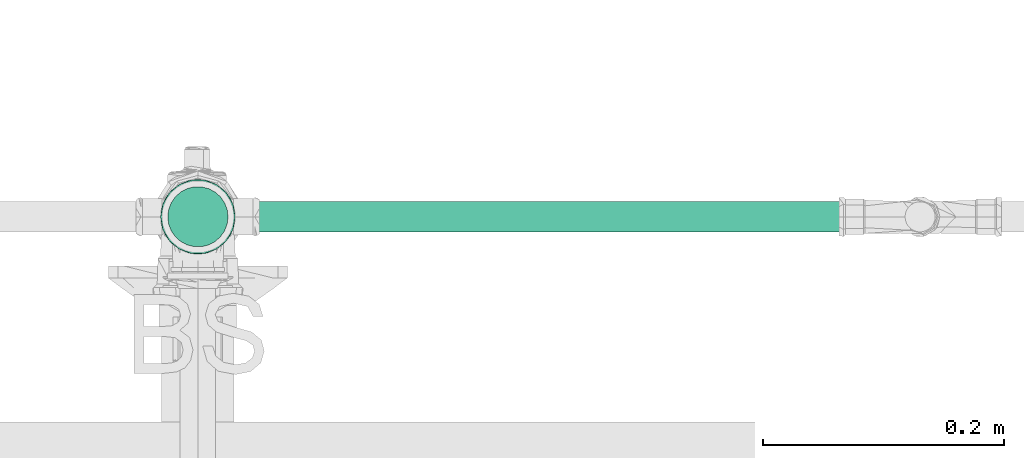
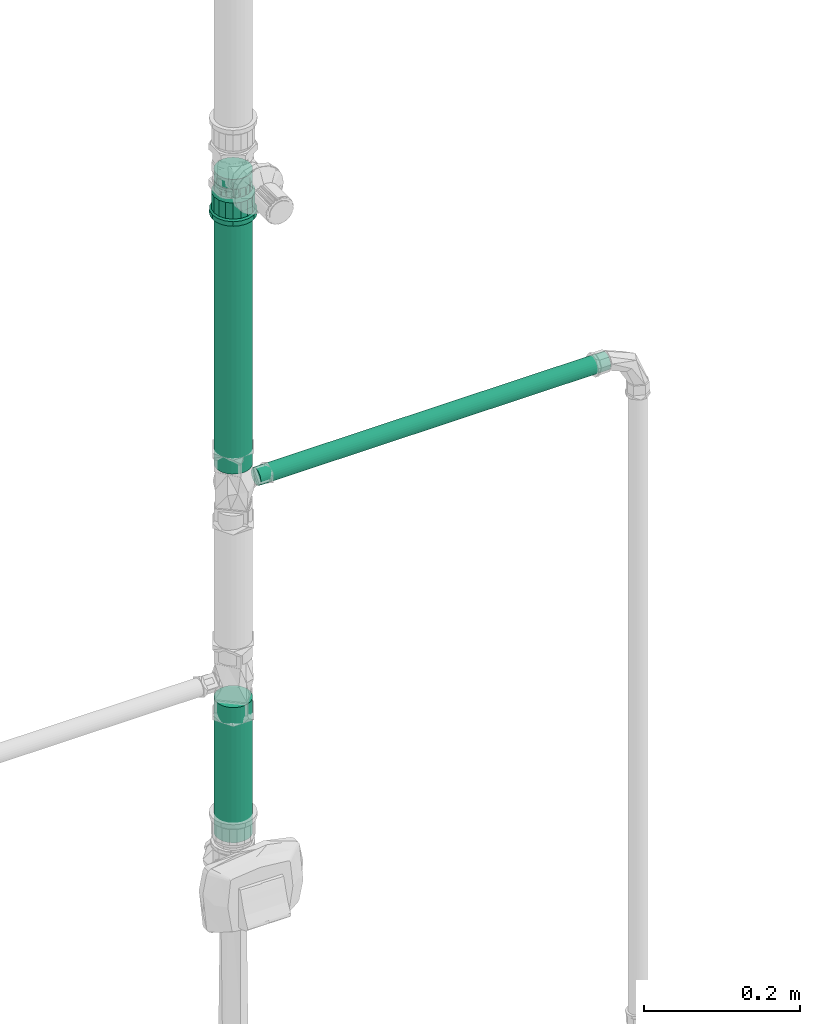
# One storey, part 290 of 589: 3 flow segments, 1 flow fitting.
"""IFC2X3 building model written with IfcOpenShell, lengths in millimetres."""

import ifcopenshell
import ifcopenshell.guid

model = None  # the IFC model being written
_history = None  # IfcOwnerHistory: only IFC2X3 demands one
_inside = {}  # id of a spatial element -> (the spatial element, [elements in it])
_under = {}  # id of a project, library or spatial element -> (it, [spatial elements below it])
_declared = {}  # id of a project -> (the project, [libraries it declares])
_typed = {}  # id of a type object -> (the type object, [elements of that type])
_made_of = {}  # id of a material, layer set ... -> (it, [elements and type objects made of it])


def new_model(schema):
    """Start an empty IFC model of exactly this schema.

    Asked for "IFC4X3", IfcOpenShell would pick the latest addendum, in which some entities
    have other attributes; the version numbers below select the first issue.
    IFC2X3 requires an IfcOwnerHistory on every rooted entity: one is made here for all.
    """
    global model, _history
    if schema == "IFC4X3":
        model = ifcopenshell.file(schema_version=(4, 3, 0, 0))
    else:
        model = ifcopenshell.file(schema=schema)
    _inside.clear()
    _under.clear()
    _declared.clear()
    _typed.clear()
    _made_of.clear()
    _history = None
    if model.schema == "IFC2X3":
        org = make("IfcOrganization", Name="unknown")
        user = make(
            "IfcPersonAndOrganization",
            ThePerson=make("IfcPerson", FamilyName="unknown"),
            TheOrganization=org,
        )
        app = make(
            "IfcApplication",
            ApplicationDeveloper=org,
            Version="unknown",
            ApplicationFullName="unknown",
            ApplicationIdentifier="unknown",
        )
        _history = make(
            "IfcOwnerHistory",
            OwningUser=user,
            OwningApplication=app,
            ChangeAction="ADDED",
            CreationDate=0,
        )
    return model


def make(cls, **values):
    """One entity of the class cls with the attributes given. An attribute that is None is left unset."""
    return model.create_entity(
        cls, **{name: value for name, value in values.items() if value is not None}
    )


def entity(cls, *values):
    """Any entity or typed value of the class cls, its attributes in the order of the schema. None: left unset."""
    e = model.create_entity(cls)
    for i, value in enumerate(values):
        if value is not None:
            e[i] = value
    return e


def rooted(cls, **values):
    """An entity with a GlobalId (a new one), such as an element, a storey or a relation."""
    return make(cls, GlobalId=ifcopenshell.guid.new(), OwnerHistory=_history, **values)


def si_unit(unit_type, name, prefix=None):
    """IfcSIUnit, for example si_unit("LENGTHUNIT", "METRE", prefix="MILLI")."""
    return make("IfcSIUnit", UnitType=unit_type, Prefix=prefix, Name=name)


def converted_unit(unit_type, name, factor, base, dimensions=None, offset=None):
    """IfcConversionBasedUnit, such as the inch: factor (a typed value) times the base unit."""
    return make(
        "IfcConversionBasedUnit"
        if offset is None
        else "IfcConversionBasedUnitWithOffset",
        ConversionOffset=offset,
        Dimensions=None
        if dimensions is None
        else entity("IfcDimensionalExponents", *dimensions),
        UnitType=unit_type,
        Name=name,
        ConversionFactor=make(
            "IfcMeasureWithUnit", ValueComponent=factor, UnitComponent=base
        ),
    )


def derived_unit(unit_type, elements):
    """IfcDerivedUnit: a product of units, each with its exponent."""
    return make(
        "IfcDerivedUnit",
        Elements=[
            make("IfcDerivedUnitElement", Unit=unit, Exponent=power)
            for unit, power in elements
        ],
        UnitType=unit_type,
    )


def assignment(units):
    """IfcUnitAssignment: the units of a project."""
    return None if units is None else make("IfcUnitAssignment", Units=units)


def point(xyz):
    """IfcCartesianPoint."""
    return None if xyz is None else make("IfcCartesianPoint", Coordinates=xyz)


def direction(xyz):
    """IfcDirection."""
    return None if xyz is None else make("IfcDirection", DirectionRatios=xyz)


def frame(location, z_axis=None, x_axis=None):
    """IfcAxis2Placement3D, a coordinate frame: its origin and axes. An axis left out is left unset."""
    return make(
        "IfcAxis2Placement3D",
        Location=point(location),
        Axis=direction(z_axis),
        RefDirection=direction(x_axis),
    )


def frame_2d(location, x_axis=None):
    """IfcAxis2Placement2D, a coordinate frame in the plane: its origin and x axis."""
    return make(
        "IfcAxis2Placement2D", Location=point(location), RefDirection=direction(x_axis)
    )


def origin():
    """The frame at (0, 0, 0) with its axes left unset."""
    return frame((0.0, 0.0, 0.0))


def origin_2d_with_axis():
    """The frame at (0, 0) in the plane with the x axis (1, 0) written out."""
    return frame_2d((0.0, 0.0), x_axis=(1.0, 0.0))


def place(relative_to, where):
    """IfcLocalPlacement: puts the frame where relative to a parent placement (None: the world)."""
    return make(
        "IfcLocalPlacement", PlacementRelTo=relative_to, RelativePlacement=where
    )


def context(
    kind, dimensions, precision=None, world=None, true_north=None, identifier=None
):
    """IfcGeometricRepresentationContext, for example the 3D "Model" context."""
    return make(
        "IfcGeometricRepresentationContext",
        ContextIdentifier=identifier,
        ContextType=kind,
        CoordinateSpaceDimension=dimensions,
        Precision=precision,
        WorldCoordinateSystem=world,
        TrueNorth=true_north,
    )


def subcontext(parent, identifier, kind, view, scale=None):
    """IfcGeometricRepresentationSubContext, for example "Body" below "Model"."""
    return make(
        "IfcGeometricRepresentationSubContext",
        ContextIdentifier=identifier,
        ContextType=kind,
        ParentContext=parent,
        TargetScale=scale,
        TargetView=view,
    )


def project(units=None, contexts=None):
    """IfcProject with its units and contexts."""
    return rooted(
        "IfcProject",
        Name="project",
        RepresentationContexts=contexts,
        UnitsInContext=assignment(units),
    )


def spatial(cls, under=None, at=None, **own):
    """A site, building, storey or space (cls), placed at a placement, below another one or the project."""
    s = rooted(cls, ObjectPlacement=at, **own)
    if under is not None:
        _under.setdefault(under.id(), (under, []))[1].append(s)
    return s


def profile(cls, at=None, kind="AREA", **sizes):
    """A parametric profile (cls). Its sizes go by their IFC names, for example OverallWidth=200.0."""
    return make(cls, ProfileType=kind, Position=at, **sizes)


def circle(**sizes):
    """IfcCircleProfileDef."""
    return profile("IfcCircleProfileDef", **sizes)


def extrude(swept, where, along, depth):
    """IfcExtrudedAreaSolid: the profile swept, set in the frame where, extruded along a direction by depth."""
    return make(
        "IfcExtrudedAreaSolid",
        SweptArea=swept,
        Position=where,
        ExtrudedDirection=direction(along),
        Depth=depth,
    )


def faces_of(points, faces, orient=None, outer=None):
    """IfcFace entities. A face is a list of loops; a loop is a list of indices into points, from 0.

    orient and outer hold one flag for each loop. By default every Orientation is true, the
    first loop of a face is its IfcFaceOuterBound and the others are IfcFaceBound.
    """
    made = []
    for i, loops in enumerate(faces):
        bounds = []
        for j, loop in enumerate(loops):
            is_outer = j == 0 if outer is None else outer[i][j]
            bounds.append(
                make(
                    "IfcFaceOuterBound" if is_outer else "IfcFaceBound",
                    Bound=make("IfcPolyLoop", Polygon=[points[k] for k in loop]),
                    Orientation=True if orient is None else orient[i][j],
                )
            )
        made.append(make("IfcFace", Bounds=bounds))
    return made


def faceted_brep(points, faces, orient=None, outer=None, voids=None):
    """IfcFacetedBrep: a solid bounded by flat faces; with voids (closed shells), ...WithVoids."""
    shared = [point(p) for p in points]
    hull = make("IfcClosedShell", CfsFaces=faces_of(shared, faces, orient, outer))
    if voids is None:
        return make("IfcFacetedBrep", Outer=hull)
    return make(
        "IfcFacetedBrepWithVoids",
        Outer=hull,
        Voids=[
            make(cls, CfsFaces=faces_of(shared, fs, o, b)) for cls, fs, o, b in voids
        ],
    )


def shape(context_of_items, identifier, shape_type, items):
    """IfcShapeRepresentation: the items that make up one representation, for example the "Body"."""
    return make(
        "IfcShapeRepresentation",
        ContextOfItems=context_of_items,
        RepresentationIdentifier=identifier,
        RepresentationType=shape_type,
        Items=items,
    )


def source(mapping_origin, context_of_items, identifier, shape_type, items):
    """IfcRepresentationMap: a shape defined once, which mapped items show again and again."""
    return make(
        "IfcRepresentationMap",
        MappingOrigin=mapping_origin,
        MappedRepresentation=shape(context_of_items, identifier, shape_type, items),
    )


def transform(
    local_origin,
    x_axis=None,
    y_axis=None,
    z_axis=None,
    scale=None,
    scale2=None,
    scale3=None,
    uniform=True,
):
    """IfcCartesianTransformationOperator3D, or its non-uniform kind. x_axis, y_axis, z_axis: its Axis1, 2, 3."""
    if uniform:
        return make(
            "IfcCartesianTransformationOperator3D",
            Axis1=direction(x_axis),
            Axis2=direction(y_axis),
            LocalOrigin=point(local_origin),
            Scale=scale,
            Axis3=direction(z_axis),
        )
    return make(
        "IfcCartesianTransformationOperator3DnonUniform",
        Axis1=direction(x_axis),
        Axis2=direction(y_axis),
        LocalOrigin=point(local_origin),
        Scale=scale,
        Axis3=direction(z_axis),
        Scale2=scale2,
        Scale3=scale3,
    )


def mapped(mapping_source, mapping_target):
    """IfcMappedItem: shows the shape of a source again, moved by a transform."""
    return make(
        "IfcMappedItem", MappingSource=mapping_source, MappingTarget=mapping_target
    )


def material(Name=None, Category=None):
    """IfcMaterial."""
    return make("IfcMaterial", Name=Name, Category=Category)


def made_of(thing, what):
    """Note that an element or type object is made of a material, layer set ...; save() writes the relation."""
    if what is not None:
        _made_of.setdefault(what.id(), (what, []))[1].append(thing)
    return thing


def type_object(cls, material=None, **own):
    """A type object (cls), such as IfcWallType, which elements share."""
    return made_of(rooted(cls, **own), material)


def type_shapes(of_type, sources):
    """Give a type object the sources (RepresentationMaps) that its elements show as mapped items."""
    of_type.RepresentationMaps = sources


def element(
    cls,
    number,
    at=None,
    inside=None,
    cuts=None,
    type_object=None,
    material=None,
    context=None,
    identifier="Body",
    shape_type=None,
    held_by="IfcProductDefinitionShape",
    body=None,
    shapes=None,
    **own,
):
    """One element of the class cls, such as IfcWall. Its Tag is "e" and its number.

    at: its placement. inside: the storey or other place that contains it. cuts: it is an
    opening in that element (IfcRelVoidsElement). A single representation is given by context,
    identifier, shape_type and body (its items); several are given by shapes. held_by: the class
    of the entity that holds the representations. save() writes the other relations.
    """
    e = rooted(cls, Tag="e%d" % number, ObjectPlacement=at, **own)
    if body is not None:
        shapes = [shape(context, identifier, shape_type, body)]
    if shapes is not None:
        e.Representation = make(held_by, Representations=shapes)
    if inside is not None:
        _inside.setdefault(inside.id(), (inside, []))[1].append(e)
    if cuts is not None:
        rooted(
            "IfcRelVoidsElement", RelatingBuildingElement=cuts, RelatedOpeningElement=e
        )
    if type_object is not None:
        _typed.setdefault(type_object.id(), (type_object, []))[1].append(e)
    return made_of(e, material)


def aggregate(whole, parts):
    """IfcRelAggregates: a whole, such as a stair, and the parts it consists of."""
    return rooted("IfcRelAggregates", RelatingObject=whole, RelatedObjects=parts)


def save(model, path):
    """Write the relations noted so far, then the file.

    IfcRelAggregates (storeys below a building ...), IfcRelContainedInSpatialStructure (elements
    in a storey), IfcRelDefinesByType, IfcRelAssociatesMaterial and IfcRelDeclares: one each for
    every whole, place, type object, material and project.
    """
    for whole, parts in _under.values():
        aggregate(whole, parts)
    for where, things in _inside.values():
        rooted(
            "IfcRelContainedInSpatialStructure",
            RelatedElements=things,
            RelatingStructure=where,
        )
    for kind, things in _typed.values():
        rooted("IfcRelDefinesByType", RelatedObjects=things, RelatingType=kind)
    for what, things in _made_of.values():
        rooted("IfcRelAssociatesMaterial", RelatedObjects=things, RelatingMaterial=what)
    for by, libraries in _declared.values():
        rooted("IfcRelDeclares", RelatingContext=by, RelatedDefinitions=libraries)
    model.write(path)


model = new_model("IFC2X3")

# Units and contexts
model_context = context("Model", 3, precision=0.01, world=origin(), true_north=direction((6.123031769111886e-17, 1.0)))
body_context = subcontext(model_context, "Body", "Model", "MODEL_VIEW")
ifc_project = project(units=[si_unit("LENGTHUNIT", "METRE", prefix="MILLI"), si_unit("AREAUNIT", "SQUARE_METRE"), si_unit("VOLUMEUNIT", "CUBIC_METRE"), converted_unit("PLANEANGLEUNIT", "DEGREE", entity("IfcRatioMeasure", 0.017453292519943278), si_unit("PLANEANGLEUNIT", "RADIAN"), dimensions=[0, 0, 0, 0, 0, 0, 0]), si_unit("MASSUNIT", "GRAM", prefix="KILO"), derived_unit("MASSDENSITYUNIT", [(si_unit("MASSUNIT", "GRAM", prefix="KILO"), 1), (si_unit("LENGTHUNIT", "METRE"), -3)]), derived_unit("IONCONCENTRATIONUNIT", [(si_unit("MASSUNIT", "GRAM", prefix="KILO"), 1), (si_unit("LENGTHUNIT", "METRE"), -3)]), derived_unit("MOMENTOFINERTIAUNIT", [(si_unit("LENGTHUNIT", "METRE"), 4)]), si_unit("TIMEUNIT", "SECOND"), si_unit("FREQUENCYUNIT", "HERTZ"), si_unit("THERMODYNAMICTEMPERATUREUNIT", "DEGREE_CELSIUS"), derived_unit("THERMALTRANSMITTANCEUNIT", [(si_unit("MASSUNIT", "GRAM", prefix="KILO"), 1), (si_unit("THERMODYNAMICTEMPERATUREUNIT", "KELVIN"), -1), (si_unit("TIMEUNIT", "SECOND"), -3)]), derived_unit("THERMALCONDUCTANCEUNIT", [(si_unit("MASSUNIT", "GRAM", prefix="KILO"), 1), (si_unit("THERMODYNAMICTEMPERATUREUNIT", "KELVIN"), -1), (si_unit("TIMEUNIT", "SECOND"), -3), (si_unit("LENGTHUNIT", "METRE"), 1)]), derived_unit("VOLUMETRICFLOWRATEUNIT", [(si_unit("LENGTHUNIT", "METRE"), 3), (si_unit("TIMEUNIT", "SECOND"), -1)]), derived_unit("MASSFLOWRATEUNIT", [(si_unit("MASSUNIT", "GRAM", prefix="KILO"), 1), (si_unit("TIMEUNIT", "SECOND"), -1)]), derived_unit("ROTATIONALFREQUENCYUNIT", [(si_unit("TIMEUNIT", "SECOND"), -1)]), si_unit("ELECTRICCURRENTUNIT", "AMPERE"), si_unit("ELECTRICVOLTAGEUNIT", "VOLT"), si_unit("POWERUNIT", "WATT"), si_unit("FORCEUNIT", "NEWTON", prefix="KILO"), si_unit("ILLUMINANCEUNIT", "LUX"), si_unit("LUMINOUSFLUXUNIT", "LUMEN"), si_unit("LUMINOUSINTENSITYUNIT", "CANDELA"), derived_unit("USERDEFINED", [(si_unit("MASSUNIT", "GRAM", prefix="KILO"), -1), (si_unit("LENGTHUNIT", "METRE"), -2), (si_unit("TIMEUNIT", "SECOND"), 3), (si_unit("LUMINOUSFLUXUNIT", "LUMEN"), 1)]), derived_unit("USERDEFINED", [(si_unit("MASSUNIT", "GRAM", prefix="KILO"), 1), (si_unit("TIMEUNIT", "SECOND"), -3), (si_unit("LENGTHUNIT", "METRE"), 3), (si_unit("ELECTRICCURRENTUNIT", "AMPERE"), -2)]), derived_unit("SOUNDPOWERUNIT", [(si_unit("MASSUNIT", "GRAM", prefix="KILO"), 1), (si_unit("TIMEUNIT", "SECOND"), -3), (si_unit("LENGTHUNIT", "METRE"), 2)]), derived_unit("SOUNDPRESSUREUNIT", [(si_unit("MASSUNIT", "GRAM", prefix="KILO"), 1), (si_unit("LENGTHUNIT", "METRE"), -1), (si_unit("TIMEUNIT", "SECOND"), -2)]), derived_unit("LINEARVELOCITYUNIT", [(si_unit("LENGTHUNIT", "METRE"), 1), (si_unit("TIMEUNIT", "SECOND"), -1)]), si_unit("PRESSUREUNIT", "PASCAL"), derived_unit("USERDEFINED", [(si_unit("MASSUNIT", "GRAM", prefix="KILO"), 1), (si_unit("LENGTHUNIT", "METRE"), -2), (si_unit("TIMEUNIT", "SECOND"), -2)]), derived_unit("LINEARFORCEUNIT", [(si_unit("MASSUNIT", "GRAM", prefix="KILO"), 1), (si_unit("TIMEUNIT", "SECOND"), -2)]), derived_unit("PLANARFORCEUNIT", [(si_unit("MASSUNIT", "GRAM", prefix="KILO"), 1), (si_unit("LENGTHUNIT", "METRE"), -1), (si_unit("TIMEUNIT", "SECOND"), -2)]), derived_unit("SPECIFICHEATCAPACITYUNIT", [(si_unit("THERMODYNAMICTEMPERATUREUNIT", "KELVIN"), -1), (si_unit("LENGTHUNIT", "METRE"), 2), (si_unit("TIMEUNIT", "SECOND"), -2)]), derived_unit("HEATINGVALUEUNIT", [(si_unit("LENGTHUNIT", "METRE"), 2), (si_unit("TIMEUNIT", "SECOND"), -2)]), derived_unit("VAPORPERMEABILITYUNIT", [(si_unit("LENGTHUNIT", "METRE"), -1), (si_unit("TIMEUNIT", "SECOND"), 1)]), derived_unit("DYNAMICVISCOSITYUNIT", [(si_unit("MASSUNIT", "GRAM", prefix="KILO"), 1), (si_unit("TIMEUNIT", "SECOND"), -1), (si_unit("LENGTHUNIT", "METRE"), -1)]), derived_unit("THERMALEXPANSIONCOEFFICIENTUNIT", [(si_unit("THERMODYNAMICTEMPERATUREUNIT", "KELVIN"), -1)]), derived_unit("MODULUSOFELASTICITYUNIT", [(si_unit("MASSUNIT", "GRAM", prefix="KILO"), 1), (si_unit("LENGTHUNIT", "METRE"), -1), (si_unit("TIMEUNIT", "SECOND"), -2)]), derived_unit("ISOTHERMALMOISTURECAPACITYUNIT", [(si_unit("LENGTHUNIT", "METRE"), 3), (si_unit("MASSUNIT", "GRAM", prefix="KILO"), -1)]), derived_unit("MOISTUREDIFFUSIVITYUNIT", [(si_unit("TIMEUNIT", "SECOND"), -1), (si_unit("LENGTHUNIT", "METRE"), 2)])], contexts=[model_context])

# Site, building, storey
site_placement = place(None, origin())
site = spatial("IfcSite", under=ifc_project, at=site_placement, Name="Default", CompositionType="ELEMENT")
building_placement = place(site_placement, origin())
building = spatial("IfcBuilding", under=site, at=building_placement, CompositionType="ELEMENT")
storey_placement = place(building_placement, frame((0.0, 0.0, 100.0)))
storey = spatial("IfcBuildingStorey", under=building, at=storey_placement, Name="TÉRREO", CompositionType="ELEMENT", Elevation=100.0)

# Flow segments
pipe_segment_type = type_object("IfcPipeSegmentType", Name="Tipos de tubos:PVC Marrom Soldável", PredefinedType="NOTDEFINED")
flow_segment_1_placement = place(storey_placement, origin())
element("IfcFlowSegment", 1, at=flow_segment_1_placement, inside=storey, type_object=pipe_segment_type, Name="Tipos de tubos:PVC Marrom Soldável", ObjectType="Tipos de tubos:PVC Marrom Soldável", context=body_context, shape_type="SweptSolid", body=[
    extrude(circle(Radius=25.0, at=frame_2d((0.0, 1.0828671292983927e-12), x_axis=(1.0, 0.0))), frame((6054.818506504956, 7535.924752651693, 1732.6000000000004), z_axis=(0.0, 0.0, 1.0), x_axis=(-1.0, 0.0, 0.0)), (0.0, 0.0, 1.0), 445.89999999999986),
])
flow_segment_2_placement = place(storey_placement, origin())
element("IfcFlowSegment", 2, at=flow_segment_2_placement, inside=storey, type_object=pipe_segment_type, Name="Tipos de tubos:PVC Marrom Soldável", ObjectType="Tipos de tubos:PVC Marrom Soldável", context=body_context, shape_type="SweptSolid", body=[
    extrude(circle(Radius=25.0, at=frame_2d((0.0, -1.0828671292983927e-12), x_axis=(1.0, 0.0))), frame((6054.818506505, 7535.924752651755, 1155.7041463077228), z_axis=(0.0, 0.0, 1.0), x_axis=(-1.0, 0.0, 0.0)), (0.0, 0.0, 1.0), 211.69585369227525),
])
flow_segment_3_placement = place(storey_placement, origin())
element("IfcFlowSegment", 3, at=flow_segment_3_placement, inside=storey, type_object=pipe_segment_type, Name="Tipos de tubos:PVC Marrom Soldável", ObjectType="Tipos de tubos:PVC Marrom Soldável", context=body_context, shape_type="SweptSolid", body=[
    extrude(circle(Radius=12.5, at=origin_2d_with_axis()), frame((6088.518506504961, 7535.924752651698, 1700.0), z_axis=(1.0, 0.0, 0.0), x_axis=(0.0, -1.0, 0.0)), (0.0, 0.0, 1.0), 518.1362150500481),
])

# Flow fitting
ifc_material = material(Name="PVC Marrom")
pipe_fitting_type = type_object("IfcPipeFittingType", Name="PVC Marrom Soldável_Adaptador Curto com Bolsa e Rosca Aninhado_Rodrigo MEP:Adaptador", PredefinedType="NOTDEFINED", material=ifc_material)
shared_shape = source(origin(), body_context, "Body", "Brep", [
    faceted_brep([(0.0, -15.475000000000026, -26.803486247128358), (0.0, -21.884954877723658, -21.88495487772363), (0.0, -12.499999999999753, -21.65063509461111), (0.0, -6.470476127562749, -24.14814565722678), (0.0, -8.010449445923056, -29.895404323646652), (0.0, -17.677669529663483, -17.6776695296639), (0.0, -26.803486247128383, -15.474999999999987), (0.0, -21.650635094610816, -12.500000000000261), (0.0, -24.148145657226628, -6.470476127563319), (0.0, -29.895404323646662, -8.01044944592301), (0.0, -25.0, 0.0), (0.0, -30.95, 0.0), (0.0, -24.14814565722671, 6.470476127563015), (0.0, -29.895404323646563, 8.010449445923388), (0.0, -21.65063509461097, 12.499999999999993), (0.0, -26.80348624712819, 15.475000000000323), (0.0, -17.6776695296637, 17.677669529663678), (0.0, -21.884954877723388, 21.884954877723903), (0.0, -12.500000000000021, 21.65063509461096), (0.0, -15.474999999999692, 26.803486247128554), (0.0, -6.4704761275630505, 24.1481456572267), (0.0, -8.010449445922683, 29.89540432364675), (0.0, 0.0, 25.0), (0.0, 0.0, 30.95), (0.0, 6.4704761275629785, 24.14814565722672), (0.0, 8.010449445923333, 29.895404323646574), (0.0, 12.49999999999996, 21.650635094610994), (0.0, 15.475000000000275, 26.803486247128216), (0.0, 17.677669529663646, 17.67766952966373), (0.0, 21.884954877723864, 21.884954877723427), (0.0, 21.65063509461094, 12.500000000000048), (0.0, 26.803486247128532, 15.474999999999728), (0.0, 29.89540432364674, 8.010449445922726), (0.0, 24.14814565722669, 6.4704761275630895), (0.0, 30.95, 0.0), (0.0, 25.0, 0.0), (0.0, 29.895404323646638, -8.010449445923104), (0.0, 24.148145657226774, -6.470476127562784), (0.0, 26.803486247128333, -15.475000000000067), (0.0, 21.6506350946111, -12.499999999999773), (0.0, 21.884954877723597, -21.884954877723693), (0.0, 17.677669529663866, -17.67766952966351), (0.0, 15.474999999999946, -26.803486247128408), (0.0, 12.500000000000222, -21.650635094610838), (0.0, 8.010449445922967, -29.895404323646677), (0.0, 6.470476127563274, -24.148145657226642), (0.0, 0.0, -30.95), (0.0, 0.0, -25.0), (7.0, 29.083191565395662, 10.586334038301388), (7.0, 29.880651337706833, 6.064083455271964), (7.0, 30.016595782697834, 5.29316701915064), (7.0, 19.590362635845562, 23.350189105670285), (7.0, 23.70796650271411, 19.895598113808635), (7.0, 26.395579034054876, 15.24096607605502), (7.0, 10.421885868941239, 28.6425895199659), (7.0, 5.3710129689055, 30.480398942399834), (7.0, 30.95, 0.0), (7.0, 15.472758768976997, 26.804780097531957), (7.0, -15.479482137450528, 26.80089798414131), (7.0, -10.42907040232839, 28.639974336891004), (7.0, -5.37865866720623, 30.479050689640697), (7.0, -23.712956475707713, 19.889650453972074), (7.0, -19.596219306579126, 23.345274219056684), (7.0, -30.95, 0.0), (7.0, -29.08584618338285, 10.57903832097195), (7.0, -26.39940132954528, 15.234344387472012), (7.0, -0.0038228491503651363, 30.47972481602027), (7.0, -29.08584618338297, -10.579038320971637), (7.0, -19.596219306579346, -23.3452742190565), (7.0, -23.71295647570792, -19.88965045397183), (7.0, -26.39940132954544, -15.234344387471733), (7.0, -10.429070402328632, -28.639974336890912), (7.0, -5.378658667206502, -30.47905068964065), (7.0, -15.47948213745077, -26.800897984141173), (7.0, 30.0165957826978, -5.2931670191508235), (7.0, 15.472758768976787, -26.804780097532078), (7.0, 10.421885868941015, -28.642589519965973), (7.0, 5.3710129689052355, -30.480398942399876), (7.0, 23.707966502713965, -19.895598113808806), (7.0, 19.590362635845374, -23.350189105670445), (7.0, 29.88065131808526, -6.064083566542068), (7.0, 29.083191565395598, -10.58633403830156), (7.0, 26.395579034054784, -15.240966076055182), (7.0, -0.003822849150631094, -30.479724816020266), (34.4499999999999, 26.875116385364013, 9.782030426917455), (9.400000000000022, 27.737468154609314, 4.8912625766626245), (9.400000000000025, 26.87493630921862, 9.782525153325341), (9.400000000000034, 14.297928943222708, 24.769522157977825), (34.4499999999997, 14.299296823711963, 24.768732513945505), (9.40000000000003, 18.102887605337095, 21.577234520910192), (34.4499999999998, 21.908523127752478, 18.384140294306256), (34.44999999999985, 24.391819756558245, 14.083085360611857), (9.400000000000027, 24.391391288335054, 14.083736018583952), (9.400000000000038, 9.63056335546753, 26.467788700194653), (9.400000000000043, 4.963197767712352, 28.16605524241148), (34.44999999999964, 4.965271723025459, 28.165689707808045), (9.400000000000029, 21.907846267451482, 18.384946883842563), (34.44999999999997, 27.796398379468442, 4.557325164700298), (9.40000000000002, 28.600000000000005, 0.0), (34.44999999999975, 18.103909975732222, 21.57643640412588), (34.44999999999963, -0.0011994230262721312, 28.165478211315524), (9.400000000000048, -0.0035325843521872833, 28.165432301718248), (34.44999999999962, -4.967670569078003, 28.165266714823), (34.44999999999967, 9.632284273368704, 26.46721111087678), (9.400000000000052, -4.970262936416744, 28.164809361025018), (9.40000000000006, -14.304141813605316, 24.765934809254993), (34.449999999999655, -14.301406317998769, 24.76751455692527), (9.400000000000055, -9.63720237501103, 26.465372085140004), (34.449999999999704, -18.105747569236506, 21.574894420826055), (34.44999999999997, 27.73755819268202, 4.891015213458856), (9.400000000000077, -26.87738936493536, 9.77578339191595), (34.450000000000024, -28.600000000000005, 0.0), (34.449999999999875, -26.875949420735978, 9.779741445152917), (9.400000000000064, -18.108299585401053, 21.57269281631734), (9.40000000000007, -21.91245735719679, 18.379450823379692), (34.449999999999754, -21.910088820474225, 18.38227428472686), (34.44999999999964, -9.634538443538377, 26.466390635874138), (9.400000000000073, -24.394923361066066, 14.077617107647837), (34.450000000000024, 28.600000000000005, 0.0), (9.40000000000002, -28.600000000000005, 0.0), (34.44999999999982, -24.3930191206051, 14.081007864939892), (34.45000000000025, -26.87594942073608, -9.77974144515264), (9.40000000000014, -26.87738936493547, -9.77578339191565), (34.45000000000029, 18.103909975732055, -21.576436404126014), (34.45000000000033, 14.299296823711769, -24.76873251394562), (9.400000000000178, 18.10288760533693, -21.577234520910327), (34.450000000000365, -21.910088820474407, -18.38227428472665), (9.400000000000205, -21.912457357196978, -18.37945082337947), (9.400000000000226, -18.108299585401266, -21.57269281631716), (34.45000000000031, -24.393019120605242, -14.081007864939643), (9.400000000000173, -24.394923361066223, -14.077617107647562), (9.40000000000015, 21.907846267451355, -18.384946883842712), (9.40000000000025, -0.0035325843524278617, -28.165432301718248), (9.400000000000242, 4.963197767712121, -28.166055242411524), (34.45000000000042, -0.0011994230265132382, -28.165478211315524), (34.45000000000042, -14.301406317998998, -24.76751455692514), (9.400000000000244, -14.304141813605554, -24.765934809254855), (9.40000000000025, -9.637202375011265, -26.46537208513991), (34.45000000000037, 9.632284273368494, -26.467211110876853), (34.45000000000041, 4.965271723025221, -28.165689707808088), (9.400000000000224, 9.63056335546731, -26.467788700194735), (9.400000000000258, -4.970262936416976, -28.164809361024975), (34.45000000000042, -9.634538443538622, -26.46639063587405), (34.45000000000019, 24.391819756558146, -14.083085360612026), (9.40000000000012, 24.391391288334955, -14.083736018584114), (9.400000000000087, 26.874936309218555, -9.782525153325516), (34.450000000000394, -18.1057475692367, -21.574894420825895), (34.450000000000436, -4.967670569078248, -28.16526671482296), (34.45000000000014, 26.875116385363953, -9.782030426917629), (34.450000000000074, 27.796398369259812, -4.557325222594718), (9.400000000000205, 14.297928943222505, -24.769522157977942), (9.400000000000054, 27.737468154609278, -4.8912625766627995), (34.450000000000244, 21.908523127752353, -18.38414029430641), (34.45000000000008, 27.737558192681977, -4.891015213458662), (69.0, 0.0, -25.0), (69.0, 6.4704761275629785, -24.14814565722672), (69.0, 12.49999999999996, -21.650635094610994), (69.0, 17.677669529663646, -17.67766952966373), (69.0, 21.650635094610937, -12.500000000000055), (69.0, 24.14814565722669, -6.4704761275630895), (69.0, 25.0, 0.0), (69.0, 24.148145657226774, 6.470476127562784), (69.0, 21.650635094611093, 12.499999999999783), (69.0, 17.67766952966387, 17.677669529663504), (69.0, 12.500000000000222, 21.650635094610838), (69.0, 6.470476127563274, 24.148145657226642), (69.0, 0.0, 25.0), (69.0, -6.470476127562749, 24.14814565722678), (69.0, -12.499999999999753, 21.65063509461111), (69.0, -17.677669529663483, 17.6776695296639), (69.0, -21.650635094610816, 12.500000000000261), (69.0, -24.148145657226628, 6.470476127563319), (69.0, -25.0, 0.0), (69.0, -24.14814565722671, -6.470476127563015), (69.0, -21.650635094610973, -12.499999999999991), (69.0, -17.6776695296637, -17.677669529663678), (69.0, -12.500000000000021, -21.65063509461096), (69.0, -6.4704761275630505, -24.1481456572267), (40.499999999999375, 8.41832461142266, 23.136178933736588), (40.49999999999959, 19.1502152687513, 16.070757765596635), (40.49999999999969, 21.321146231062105, 12.310958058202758), (40.49999999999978, 23.492077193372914, 8.551158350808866), (40.49999999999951, 15.824202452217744, 18.861218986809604), (40.49999999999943, 12.498189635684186, 21.651680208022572), (40.49999999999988, 24.246038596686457, 4.275579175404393), (40.49999999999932, 4.3384595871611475, 24.620677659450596), (40.499999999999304, -0.003087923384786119, 24.620133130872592), (40.499999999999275, -4.344635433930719, 24.61958860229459), (40.49999999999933, -12.503620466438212, 21.648544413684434), (40.49999999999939, -15.828933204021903, 18.85724896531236), (40.49999999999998, 25.0, 0.0), (40.49999999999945, -19.154245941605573, 16.065953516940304), (40.49999999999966, -23.494221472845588, 8.545265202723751), (40.499999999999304, -8.424127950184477, 23.13406650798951), (40.49999999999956, -21.324233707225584, 12.305609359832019), (40.49999999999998, -25.0, 0.0), (40.500000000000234, -19.15424594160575, -16.065953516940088), (40.50000000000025, 12.498189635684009, -21.65168020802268), (40.500000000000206, 15.824202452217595, -18.861218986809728), (40.500000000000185, -21.32423370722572, -12.305609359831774), (40.50000000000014, -23.494221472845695, -8.545265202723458), (40.50000000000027, -15.82893320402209, -18.8572489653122), (40.5000000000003, -12.503620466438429, -21.64854441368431), (40.50000000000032, -8.42412795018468, -23.13406650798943), (40.50000000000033, -4.344635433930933, -24.619588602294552), (40.50000000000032, -0.00308792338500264, -24.620133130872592), (40.5000000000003, 4.3384595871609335, -24.62067765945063), (40.50000000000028, 8.41832461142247, -23.136178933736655), (40.50000000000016, 19.150215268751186, -16.070757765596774), (40.50000000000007, 23.49207719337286, -8.551158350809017), (40.500000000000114, 21.321146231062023, -12.31095805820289), (40.50000000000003, 24.246038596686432, -4.275579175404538), (9.40000000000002, 24.14814565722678, -6.470476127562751), (34.450000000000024, 24.14814565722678, -6.470476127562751), (34.450000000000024, 25.0, 0.0), (9.40000000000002, 25.0, 0.0), (7.0, 25.0, 0.0), (7.0, 24.14814565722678, -6.470476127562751), (9.40000000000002, 21.650635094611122, -12.499999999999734), (34.450000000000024, 21.650635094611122, -12.499999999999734), (7.0, 21.650635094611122, -12.499999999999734), (34.450000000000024, 12.500000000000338, -21.65063509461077), (34.450000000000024, 17.677669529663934, -17.677669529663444), (9.40000000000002, 17.677669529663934, -17.677669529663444), (7.0, 17.677669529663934, -17.677669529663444), (7.0, 12.500000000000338, -21.65063509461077), (9.40000000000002, 12.500000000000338, -21.65063509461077), (34.450000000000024, 6.470476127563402, -24.148145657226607), (7.0, 6.470476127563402, -24.148145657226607), (9.40000000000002, 6.470476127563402, -24.148145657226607), (34.450000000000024, 0.0, -25.0), (7.0, 0.0, -25.0), (9.40000000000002, 0.0, -25.0), (9.40000000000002, -6.470476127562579, -24.148145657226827), (34.450000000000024, -6.470476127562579, -24.148145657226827), (7.0, -6.470476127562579, -24.148145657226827), (9.40000000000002, -12.49999999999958, -21.65063509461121), (34.450000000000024, -12.49999999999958, -21.65063509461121), (7.0, -12.49999999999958, -21.65063509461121), (9.40000000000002, -24.148145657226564, -6.470476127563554), (7.0, -24.14814565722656, -6.470476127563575), (7.0, -25.0, 0.0), (9.40000000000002, -25.0, 0.0), (34.450000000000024, -25.0, 0.0), (34.450000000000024, -24.148145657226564, -6.470476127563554), (9.40000000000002, -17.677669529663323, -17.677669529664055), (34.450000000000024, -17.677669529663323, -17.677669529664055), (7.0, -17.677669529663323, -17.677669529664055), (9.40000000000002, -21.650635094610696, -12.500000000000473), (34.450000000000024, -21.650635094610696, -12.500000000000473), (7.0, -21.650635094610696, -12.500000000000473), (9.40000000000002, -24.148145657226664, 6.470476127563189), (34.450000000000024, -24.148145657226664, 6.470476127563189), (7.0, -24.148145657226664, 6.470476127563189), (9.40000000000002, -21.65063509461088, 12.50000000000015), (34.450000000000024, -21.65063509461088, 12.50000000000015), (7.0, -21.65063509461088, 12.50000000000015), (34.450000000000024, -12.49999999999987, 21.650635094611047), (34.450000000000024, -17.677669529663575, 17.677669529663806), (9.40000000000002, -17.677669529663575, 17.677669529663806), (7.0, -17.677669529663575, 17.677669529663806), (7.0, -12.49999999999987, 21.650635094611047), (9.40000000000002, -12.49999999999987, 21.650635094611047), (34.450000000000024, -6.470476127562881, 24.14814565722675), (7.0, -6.470476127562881, 24.14814565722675), (9.40000000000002, -6.470476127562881, 24.14814565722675), (34.450000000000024, 0.0, 25.0), (7.0, 0.0, 25.0), (9.40000000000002, 0.0, 25.0), (34.450000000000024, 12.50000000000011, 21.650635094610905), (9.40000000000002, 12.50000000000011, 21.650635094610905), (7.0, 12.50000000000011, 21.650635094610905), (7.0, 17.677669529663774, 17.677669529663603), (9.40000000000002, 17.677669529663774, 17.677669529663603), (34.450000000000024, 17.677669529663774, 17.677669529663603), (34.450000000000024, 21.650635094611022, 12.499999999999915), (9.40000000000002, 21.650635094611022, 12.499999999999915), (7.0, 21.650635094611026, 12.499999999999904), (7.0, 24.14814565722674, 6.470476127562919), (9.40000000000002, 24.14814565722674, 6.470476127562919), (34.450000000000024, 24.14814565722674, 6.470476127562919), (34.450000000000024, 6.470476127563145, 24.148145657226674), (9.40000000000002, 6.470476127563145, 24.148145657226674), (7.0, 6.470476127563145, 24.148145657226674)], [[[0, 1, 2]], [[0, 2, 3]], [[3, 4, 0]], [[2, 1, 5]], [[6, 5, 1]], [[7, 5, 6]], [[8, 7, 6]], [[8, 6, 9]], [[8, 9, 10]], [[10, 9, 11]], [[12, 10, 11]], [[12, 11, 13]], [[14, 12, 13]], [[14, 13, 15]], [[16, 14, 15]], [[15, 17, 16]], [[17, 18, 16]], [[18, 17, 19]], [[18, 19, 20]], [[21, 20, 19]], [[20, 21, 22]], [[22, 21, 23]], [[23, 24, 22]], [[24, 23, 25]], [[24, 25, 26]], [[27, 26, 25]], [[27, 28, 26]], [[27, 29, 28]], [[30, 28, 29]], [[31, 30, 29]], [[32, 30, 31]], [[33, 30, 32]], [[33, 32, 34]], [[34, 35, 33]], [[36, 35, 34]], [[36, 37, 35]], [[37, 36, 38]], [[39, 37, 38]], [[39, 38, 40]], [[39, 40, 41]], [[40, 42, 41]], [[41, 42, 43]], [[43, 42, 44]], [[44, 45, 43]], [[46, 45, 44]], [[4, 47, 46]], [[46, 47, 45]], [[4, 3, 47]], [[32, 48, 49, 50]], [[51, 52, 29]], [[53, 48, 31, 52]], [[54, 25, 55]], [[48, 32, 31]], [[34, 50, 56]], [[27, 57, 51]], [[29, 27, 51]], [[29, 52, 31]], [[19, 58, 59]], [[21, 19, 59]], [[54, 57, 27]], [[25, 54, 27]], [[55, 25, 23]], [[32, 50, 34]], [[59, 60, 21]], [[61, 62, 17]], [[63, 64, 13]], [[65, 61, 15, 64]], [[11, 63, 13]], [[17, 62, 19]], [[66, 55, 23, 60]], [[21, 60, 23]], [[61, 17, 15]], [[19, 62, 58]], [[13, 64, 15]], [[67, 63, 9]], [[68, 69, 1]], [[70, 67, 6, 69]], [[71, 4, 72]], [[67, 9, 6]], [[63, 11, 9]], [[4, 71, 0]], [[0, 73, 68]], [[1, 69, 6]], [[36, 34, 74]], [[42, 75, 76]], [[71, 73, 0]], [[44, 42, 76]], [[72, 4, 46]], [[1, 0, 68]], [[76, 77, 44]], [[78, 79, 40]], [[36, 74, 80, 81]], [[82, 78, 38, 81]], [[36, 81, 38]], [[40, 79, 42]], [[83, 72, 46, 77]], [[44, 77, 46]], [[78, 40, 38]], [[42, 79, 75]], [[34, 56, 74]], [[84, 85, 86]], [[87, 88, 89]], [[90, 91, 92]], [[93, 94, 95]], [[92, 96, 90]], [[97, 98, 85]], [[96, 89, 99]], [[84, 86, 91]], [[100, 101, 102]], [[103, 93, 95]], [[93, 103, 87]], [[92, 91, 86]], [[101, 104, 102]], [[99, 89, 88]], [[105, 106, 107]], [[106, 105, 108]], [[85, 84, 109, 97]], [[95, 94, 100]], [[110, 111, 112]], [[113, 114, 115]], [[102, 104, 116]], [[112, 117, 110]], [[108, 113, 115]], [[107, 116, 104]], [[97, 118, 98]], [[108, 105, 113]], [[111, 110, 119]], [[90, 96, 99]], [[120, 114, 117]], [[120, 117, 112]], [[88, 87, 103]], [[94, 101, 100]], [[115, 114, 120]], [[116, 107, 106]], [[121, 111, 122]], [[123, 124, 125]], [[126, 127, 128]], [[129, 121, 130]], [[125, 131, 123]], [[121, 122, 130]], [[132, 133, 134]], [[135, 136, 137]], [[138, 139, 140]], [[122, 111, 119]], [[130, 127, 129]], [[137, 141, 142]], [[143, 144, 145]], [[146, 126, 128]], [[134, 147, 132]], [[142, 135, 137]], [[133, 139, 134]], [[139, 133, 140]], [[146, 136, 135]], [[148, 143, 145]], [[142, 141, 147]], [[98, 118, 149]], [[124, 150, 125]], [[138, 150, 124]], [[145, 151, 148]], [[128, 136, 146]], [[131, 144, 152]], [[151, 149, 153, 148]], [[143, 152, 144]], [[123, 131, 152]], [[132, 147, 141]], [[151, 98, 149]], [[129, 127, 126]], [[140, 150, 138]], [[154, 155, 156, 157, 158, 159, 160, 161, 162, 163, 164, 165, 166, 167, 168, 169, 170, 171, 172, 173, 174, 175, 176, 177]], [[165, 164, 178]], [[179, 163, 162]], [[180, 179, 162, 181]], [[164, 182, 183]], [[184, 181, 161]], [[178, 185, 165]], [[182, 163, 179]], [[186, 187, 166, 185]], [[165, 185, 166]], [[163, 182, 164]], [[168, 188, 189]], [[161, 160, 184]], [[160, 190, 184]], [[169, 191, 170]], [[161, 181, 162]], [[192, 171, 170]], [[167, 193, 168]], [[194, 192, 170, 191]], [[172, 171, 195]], [[187, 193, 167]], [[167, 166, 187]], [[168, 193, 188]], [[169, 168, 189]], [[189, 191, 169]], [[192, 195, 171]], [[164, 183, 178]], [[173, 172, 195]], [[196, 175, 174]], [[156, 197, 198]], [[199, 196, 174, 200]], [[176, 201, 202]], [[173, 195, 200]], [[203, 204, 177]], [[201, 175, 196]], [[205, 206, 154, 204]], [[157, 156, 198]], [[175, 201, 176]], [[176, 202, 203]], [[207, 197, 156]], [[173, 200, 174]], [[177, 176, 203]], [[157, 208, 158]], [[209, 159, 158]], [[210, 209, 158, 208]], [[211, 190, 160]], [[155, 154, 206]], [[155, 206, 207]], [[155, 207, 156]], [[198, 208, 157]], [[159, 209, 211]], [[159, 211, 160]], [[177, 204, 154]], [[212, 213, 214, 215, 216, 35, 37, 217]], [[218, 219, 213, 212, 217, 37, 39, 220]], [[221, 222, 223, 224, 41, 43, 225, 226]], [[218, 220, 39, 41, 224, 223, 222, 219]], [[227, 221, 226, 225, 43, 45, 228, 229]], [[230, 227, 229, 228, 45, 47, 231, 232]], [[233, 234, 230, 232, 231, 47, 3, 235]], [[236, 237, 234, 233, 235, 3, 2, 238]], [[239, 240, 8, 10, 241, 242, 243, 244]], [[245, 246, 237, 236, 238, 2, 5, 247]], [[248, 249, 246, 245, 247, 5, 7, 250]], [[248, 250, 7, 8, 240, 239, 244, 249]], [[251, 252, 243, 242, 241, 10, 12, 253]], [[254, 255, 252, 251, 253, 12, 14, 256]], [[257, 258, 259, 260, 16, 18, 261, 262]], [[254, 256, 14, 16, 260, 259, 258, 255]], [[263, 257, 262, 261, 18, 20, 264, 265]], [[266, 263, 265, 264, 20, 22, 267, 268]], [[269, 270, 271, 26, 28, 272, 273, 274]], [[275, 276, 277, 30, 33, 278, 279, 280]], [[273, 272, 28, 30, 277, 276, 275, 274]], [[280, 279, 278, 33, 35, 216, 215, 214]], [[281, 282, 283, 24, 26, 271, 270, 269]], [[282, 281, 266, 268, 267, 22, 24, 283]], [[122, 119, 63, 67]], [[151, 145, 81, 80, 74, 56, 98]], [[71, 72, 141, 137, 136, 73]], [[83, 77, 133, 132, 141, 72]], [[136, 128, 127, 69, 68, 73]], [[130, 122, 67, 70, 69, 127]], [[76, 75, 150, 140, 133, 77]], [[82, 81, 145, 144, 131, 78]], [[131, 125, 150, 75, 79, 78]], [[85, 98, 56, 50, 49, 48, 86]], [[92, 86, 48, 53, 52, 96]], [[89, 96, 52, 51, 57, 87]], [[57, 54, 55, 94, 93, 87]], [[66, 60, 104, 101, 94, 55]], [[58, 105, 107, 104, 60, 59]], [[63, 119, 110, 64]], [[61, 65, 64, 110, 117, 114]], [[58, 62, 61, 114, 113, 105]], [[221, 227, 230, 234, 237, 246, 249, 244, 243, 252, 255, 258, 257, 263, 266, 281, 269, 274, 275, 280, 214, 213, 219, 222]], [[190, 118, 97, 109]], [[109, 84, 184]], [[184, 84, 181]], [[178, 95, 185]], [[183, 88, 103]], [[179, 90, 99]], [[182, 88, 183]], [[181, 84, 91]], [[178, 183, 103]], [[103, 95, 178]], [[186, 185, 100]], [[91, 90, 180]], [[100, 102, 186]], [[180, 181, 91]], [[99, 88, 182]], [[182, 179, 99]], [[102, 187, 186]], [[189, 115, 191]], [[187, 102, 116]], [[180, 90, 179]], [[100, 185, 95]], [[193, 106, 188]], [[111, 195, 192]], [[191, 115, 120]], [[194, 112, 192]], [[188, 106, 108]], [[194, 191, 120]], [[120, 112, 194]], [[184, 190, 109]], [[108, 115, 189]], [[112, 111, 192]], [[189, 188, 108]], [[116, 106, 193]], [[193, 187, 116]], [[111, 200, 195]], [[203, 142, 204]], [[201, 146, 202]], [[199, 129, 196]], [[142, 147, 204]], [[146, 135, 202]], [[205, 134, 206]], [[129, 126, 196]], [[196, 126, 201]], [[121, 200, 111]], [[121, 129, 199]], [[201, 126, 146]], [[206, 139, 207]], [[204, 147, 205]], [[135, 142, 203]], [[200, 121, 199]], [[134, 139, 206]], [[202, 135, 203]], [[138, 124, 197]], [[207, 138, 197]], [[211, 153, 190]], [[210, 143, 209]], [[190, 153, 149, 118]], [[143, 148, 209]], [[198, 123, 208]], [[123, 152, 208]], [[208, 152, 210]], [[138, 207, 139]], [[198, 124, 123]], [[152, 143, 210]], [[148, 153, 211]], [[197, 124, 198]], [[147, 134, 205]], [[209, 148, 211]]]),
])
type_shapes(pipe_fitting_type, [shared_shape])
flow_fitting_placement = place(storey_placement, frame((6054.818506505, 7535.924752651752, 2125.0), z_axis=(0.0, -1.0, 0.0), x_axis=(0.0, 0.0, 1.0)))
element("IfcFlowFitting", 4, at=flow_fitting_placement, inside=storey, type_object=pipe_fitting_type, material=ifc_material, Name="PVC Marrom Soldável_Adaptador Curto com Bolsa e Rosca Aninhado_Rodrigo MEP:Adaptador", ObjectType="PVC Marrom Soldável_Adaptador Curto com Bolsa e Rosca Aninhado_Rodrigo MEP:Adaptador", context=body_context, shape_type="MappedRepresentation", body=[
    mapped(shared_shape, transform((0.0, 0.0, 0.0), scale=1.0)),
])

save(model, "model.ifc")
